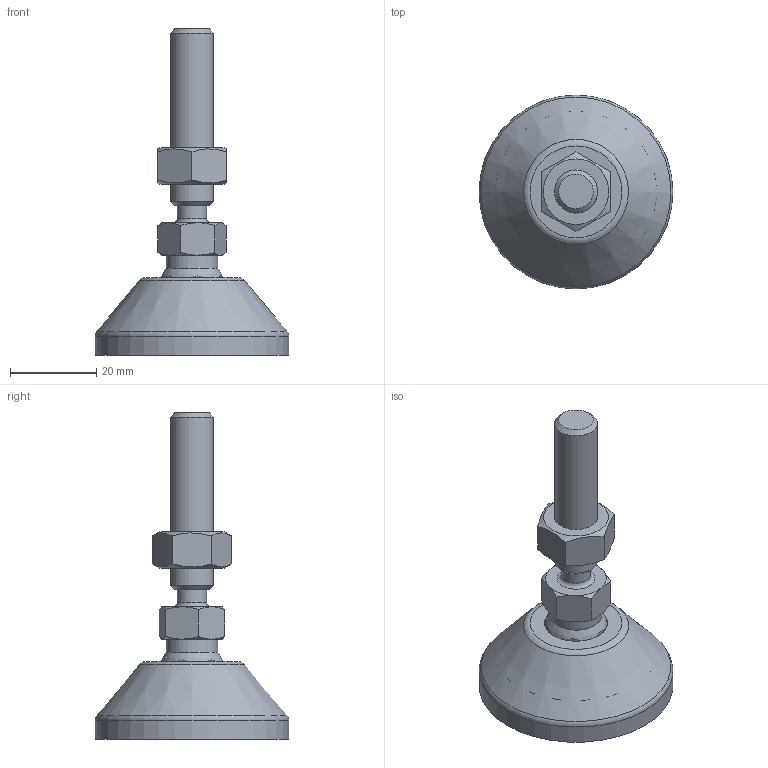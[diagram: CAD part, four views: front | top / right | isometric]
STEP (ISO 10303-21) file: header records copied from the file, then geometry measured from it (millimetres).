
FILE_DESCRIPTION(('STEP AP203'), '1');
FILE_NAME('栖闉罻', '', ('UNSPECIFIED'), ('UNSPECIFIED'), 'C3D Converter', 'C3D Toolkit', '');
FILE_SCHEMA(('CONFIG_CONTROL_DESIGN'));
Length unit declared in the file: millimetre
Products named in the file (4): A00015.1045; A00020.110045
Assembly tree (3 placements, depth 2):
  (unnamed)
    A00015.1045
    A00020.110045
    (unnamed)
Bounding box: 45 x 45 x 75.7 mm (x, y, z)
Volume: 19833.9 mm3; surface area: 10239.6 mm2
Topology: 3 solids, 3 shells, 147 faces, 391 edges, 260 vertices
Faces by surface type: plane 85, cylinder 26, cone 21, torus 13, sphere 2
Full cylindrical faces by diameter (mm): 6.8 x1, 8.917 x1, 10 x1, 12 x1, 14.3 x1, 15 x2, 15.5 x1, 37.3 x1, 45 x1
Entity records: 7914 total; most frequent: CARTESIAN_POINT 3093, DIRECTION 748, ORIENTED_EDGE 722, EDGE_CURVE 361, AXIS2_PLACEMENT_3D 304, VERTEX_POINT 258, EDGE_LOOP 185, FACE_BOUND 163
